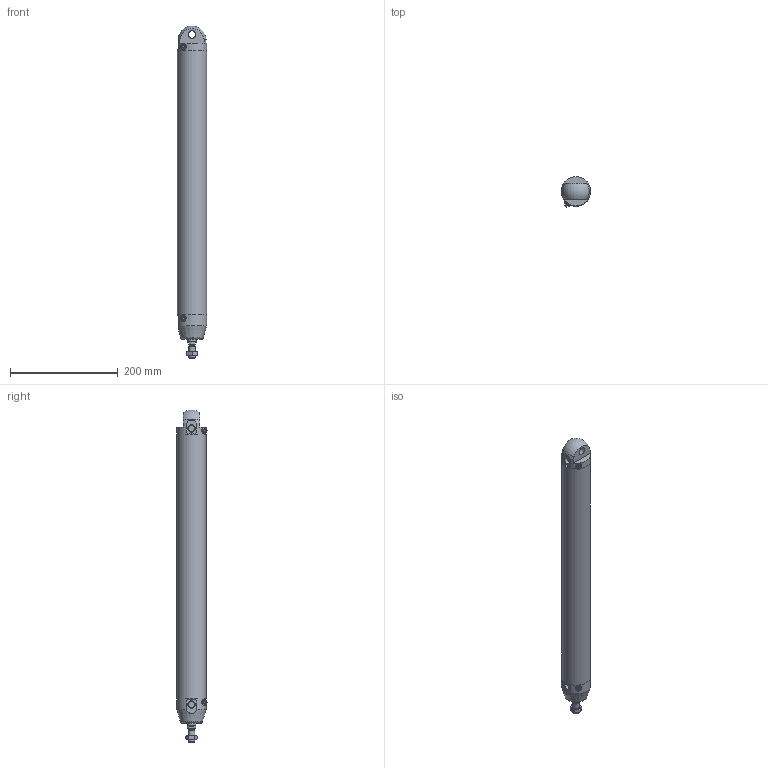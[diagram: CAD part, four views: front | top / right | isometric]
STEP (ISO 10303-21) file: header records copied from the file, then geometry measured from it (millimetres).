
FILE_DESCRIPTION(/* description */ (''),/* implementation_level */ '2;1');
FILE_NAME(/* name */ 'I:\Area Tecnica\Documenti\A-Manieri\_Inventor\12X\12X#A_###_####_#_#\12XBA_050_0450_#_#.stp',/* time_stamp */ '2015-04-24T09:19:26+02:00',/* author */ ('maniean1'),/* organization */ ('Pneumax S.p.A.'),/* preprocessor_version */ 'ST-DEVELOPER v15.2',/* originating_system */ 'Autodesk Inventor 2014',/* authorisation */ '');
FILE_SCHEMA (('AUTOMOTIVE_DESIGN { 1 0 10303 214 3 1 1 }'));
Length unit declared in the file: millimetre
Products named in the file (6): C1250_619-0450; 12X50_614; 12X50_607; S12X50_0450; 12X_50_11; 12XBA_050_0450_#_#
Bounding box: 54 x 55.88 x 616.83 mm (x, y, z)
Volume: 492362.7 mm3; surface area: 223644.6 mm2
Topology: 5 solids, 5 shells, 77 faces, 168 edges, 109 vertices
Faces by surface type: plane 43, cylinder 18, cone 12, torus 3, sphere 1
Full cylindrical faces by diameter (mm): 5 x2, 10.2 x1, 11 x2, 11.4 x2, 12 x2, 14 x2, 15.6 x1, 16 x1, 50 x2, 54 x3
Entity records: 2072 total; most frequent: CARTESIAN_POINT 428, DIRECTION 346, ORIENTED_EDGE 260, AXIS2_PLACEMENT_3D 152, EDGE_CURVE 130, EDGE_LOOP 122, VERTEX_POINT 100, ADVANCED_FACE 77
